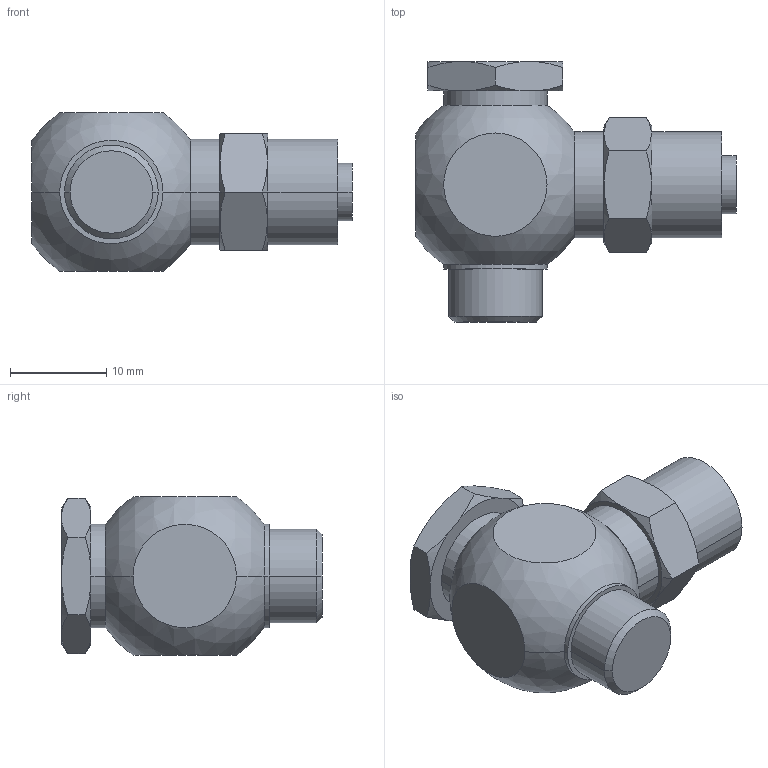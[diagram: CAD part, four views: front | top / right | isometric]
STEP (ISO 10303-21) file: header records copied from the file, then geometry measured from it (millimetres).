
FILE_DESCRIPTION((''),'2;1');
FILE_NAME('1823391103','2019-10-23T',('PDH2HC'),(''),'CREO PARAMETRIC BY PTC INC, 2016260','CREO PARAMETRIC BY PTC INC, 2016260','');
FILE_SCHEMA(('CONFIG_CONTROL_DESIGN'));
Length unit declared in the file: millimetre
Products named in the file (1): 1823391103
Bounding box: 33.25 x 27 x 16.5 mm (x, y, z)
Volume: 6122.5 mm3; surface area: 2535 mm2
Topology: 1 solids, 1 shells, 62 faces, 148 edges, 98 vertices
Faces by surface type: plane 26, cone 18, cylinder 16, sphere 2
Entity records: 2183 total; most frequent: CARTESIAN_POINT 684, DIRECTION 300, ORIENTED_EDGE 296, EDGE_CURVE 148, AXIS2_PLACEMENT_3D 126, VERTEX_POINT 98, EDGE_LOOP 72, CIRCLE 64
